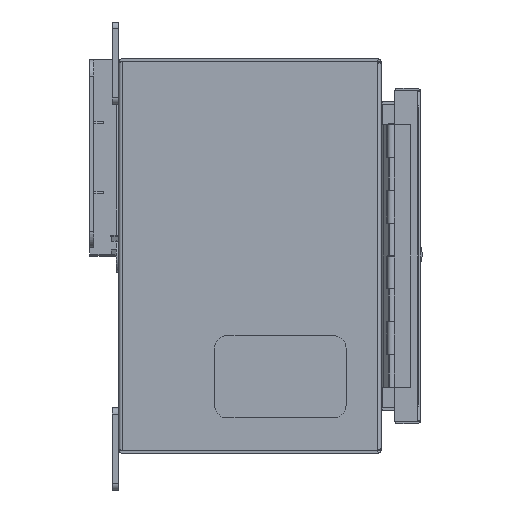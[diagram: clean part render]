
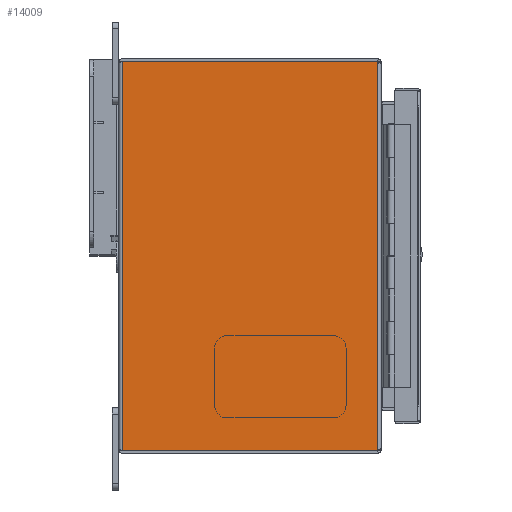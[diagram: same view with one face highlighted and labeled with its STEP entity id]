
A CAD part, left-side view. The second image highlights one B-rep face of the part: STEP entity #14009.
In plain terms, the highlighted planar face has unit normal (-1, 0, 0).
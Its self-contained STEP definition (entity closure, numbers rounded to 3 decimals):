
#1235=LINE('',#21060,#2563);
#1238=LINE('',#21074,#2566);
#1245=LINE('',#21087,#2573);
#1247=LINE('',#21091,#2575);
#2563=VECTOR('',#17263,1000.);
#2566=VECTOR('',#17280,1000.);
#2573=VECTOR('',#17291,1000.);
#2575=VECTOR('',#17297,1000.);
#5265=ORIENTED_EDGE('',*,*,#8514,.T.);
#5266=ORIENTED_EDGE('',*,*,#8505,.T.);
#5267=ORIENTED_EDGE('',*,*,#8498,.T.);
#5268=ORIENTED_EDGE('',*,*,#8512,.T.);
#8498=EDGE_CURVE('',#10225,#10224,#1235,.T.);
#8505=EDGE_CURVE('',#10229,#10225,#1238,.T.);
#8512=EDGE_CURVE('',#10224,#10232,#1245,.T.);
#8514=EDGE_CURVE('',#10232,#10229,#1247,.T.);
#10224=VERTEX_POINT('',#21059);
#10225=VERTEX_POINT('',#21061);
#10229=VERTEX_POINT('',#21075);
#10232=VERTEX_POINT('',#21086);
#11731=EDGE_LOOP('',(#5265,#5266,#5267,#5268));
#12627=FACE_BOUND('',#11731,.T.);
#13384=PLANE('',#15127);
#14009=ADVANCED_FACE('',(#12627),#13384,.T.);
#15127=AXIS2_PLACEMENT_3D('',#21090,#17295,#17296);
#17263=DIRECTION('',(0.,0.,-1.));
#17280=DIRECTION('',(0.,1.,0.));
#17291=DIRECTION('',(0.,-1.,0.));
#17295=DIRECTION('',(-1.,0.,0.));
#17296=DIRECTION('',(0.,-1.,0.));
#17297=DIRECTION('',(0.,0.,1.));
#21059=CARTESIAN_POINT('',(-304.8,-2.743,-150.569));
#21060=CARTESIAN_POINT('',(-304.8,-2.743,149.657));
#21061=CARTESIAN_POINT('',(-304.8,-2.743,150.569));
#21074=CARTESIAN_POINT('',(-304.8,-2.025,150.569));
#21075=CARTESIAN_POINT('',(-304.8,-200.457,150.569));
#21086=CARTESIAN_POINT('',(-304.8,-200.457,-150.569));
#21087=CARTESIAN_POINT('',(-304.8,-2.025,-150.569));
#21090=CARTESIAN_POINT('',(-304.8,-2.025,149.657));
#21091=CARTESIAN_POINT('',(-304.8,-200.457,150.569));
